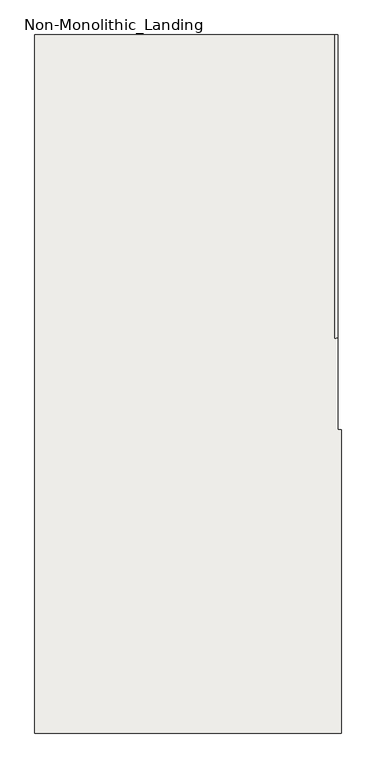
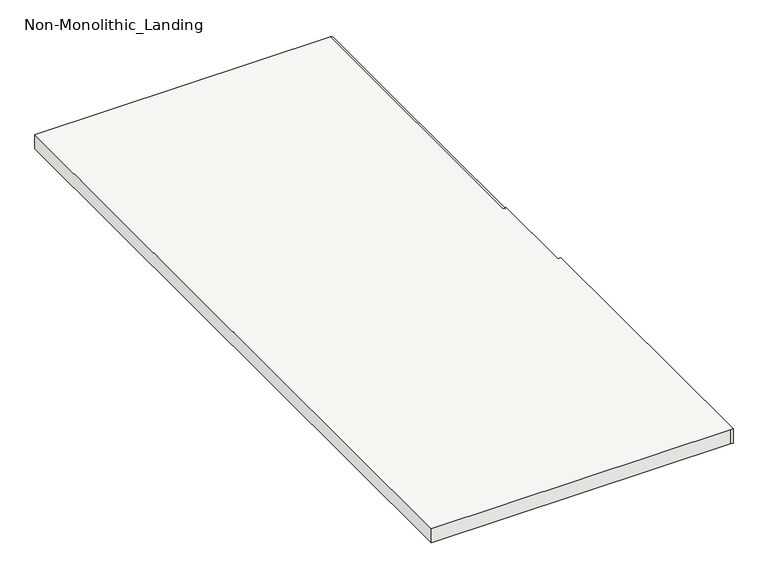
"""IFC4 building model written with IfcOpenShell, lengths in millimetres: slab geometry, Non-Monolithic_Landing."""

from ifc_helpers import new_model, si_unit, frame, origin, place, context, project, spatial, circle_curve, source, transform, mapped, element, save
from ifc_brep_helpers import plane_surface, cylinder_surface, advanced_brep


def non_monolithic_landing_f94249ac(model_context):
    return source(origin(), model_context, "Body", "AdvancedBrep", [
        advanced_brep(
        [(-17670.7705062, -30865.7565305, 4280.0), (-17670.7705062, -30865.7565305, 4300.0), (-17670.7705062, -31865.7565305, 4300.0), (-17660.7705062, -31865.7565305, 4290.0), (-17670.7705062, -31865.7565305, 4280.0), (-17660.7705062, -31865.7565305, 4300.0), (-18660.7705062, -30865.7565305, 4300.0), (-18660.7705062, -33165.7565305, 4300.0), (-17660.7705062, -33165.7565305, 4300.0), (-17650.7705062, -33165.7565305, 4300.0), (-17650.7705062, -32165.7565305, 4300.0), (-17660.7705062, -32165.7565305, 4300.0), (-17670.7705062, -31865.7565305, 4250.0), (-17660.7705062, -31865.7565305, 4250.0), (-17660.7705062, -32165.7565305, 4250.0), (-17650.7705062, -32165.7565305, 4250.0), (-17650.7705062, -33165.7565305, 4250.0), (-17660.7705062, -33165.7565305, 4250.0), (-18660.7705062, -33165.7565305, 4250.0), (-18660.7705062, -30865.7565305, 4250.0), (-17670.7705062, -30865.7565305, 4250.0)],
        [
            (0, 1, circle_curve(frame((-17670.7705062, -30865.7565305, 4290.0), z_axis=(0.0, -1.0, 0.0), x_axis=(-1.0, 0.0, 0.0)), 10.0)),
            (1, 2),
            (2, 3, circle_curve(frame((-17670.7705062, -31865.7565305, 4290.0), z_axis=(0.0, 1.0, 0.0), x_axis=(-1.0, 0.0, 0.0)), 10.0)),
            (3, 4, circle_curve(frame((-17670.7705062, -31865.7565305, 4290.0), z_axis=(0.0, 1.0, 0.0), x_axis=(-1.0, 0.0, 0.0)), 10.0)),
            (4, 0),
            (5, 2),
            (1, 6),
            (6, 7),
            (7, 8),
            (8, 9),
            (9, 10),
            (10, 11),
            (11, 5),
            (12, 13),
            (13, 14),
            (14, 15),
            (15, 16),
            (16, 17),
            (17, 18),
            (18, 19),
            (19, 20),
            (20, 12),
            (5, 3),
            (12, 4),
            (3, 13),
            (20, 0),
            (19, 6),
            (18, 7),
            (17, 8),
            (16, 9),
            (15, 10),
            (14, 11),
        ],
        [
            cylinder_surface(frame((-17670.7705062, -30865.7565305, 4290.0), z_axis=(0.0, 1.0, 0.0), x_axis=(-1.0, 0.0, 0.0)), 10.0),
            plane_surface(frame((-17660.7705062, -31865.7565305, 4300.0), z_axis=(0.0, 0.0, 1.0), x_axis=(-1.0, 0.0, 0.0))),
            plane_surface(frame((-17660.7705062, -31865.7565305, 4250.0), z_axis=(0.0, 0.0, -1.0), x_axis=(1.0, 0.0, 0.0))),
            plane_surface(frame((-17660.7705062, -31865.7565305, 4300.0), z_axis=(0.0, 1.0, 0.0), x_axis=(0.0, 0.0, -1.0))),
            plane_surface(frame((-17670.7705062, -31865.7565305, 4300.0), z_axis=(1.0, 0.0, 0.0), x_axis=(0.0, 0.0, -1.0))),
            plane_surface(frame((-17670.7705062, -30865.7565305, 4300.0), z_axis=(0.0, 1.0, 0.0), x_axis=(0.0, 0.0, -1.0))),
            plane_surface(frame((-18660.7705062, -30865.7565305, 4300.0), z_axis=(-1.0, 0.0, 0.0), x_axis=(0.0, 0.0, -1.0))),
            plane_surface(frame((-18660.7705062, -33165.7565305, 4300.0), z_axis=(0.0, -1.0, 0.0), x_axis=(0.0, 0.0, -1.0))),
            plane_surface(frame((-17660.7705062, -33165.7565305, 4300.0), z_axis=(0.0, -1.0, 0.0), x_axis=(0.0, 0.0, -1.0))),
            plane_surface(frame((-17650.7705062, -33165.7565305, 4300.0), z_axis=(1.0, 0.0, 0.0), x_axis=(0.0, 0.0, -1.0))),
            plane_surface(frame((-17650.7705062, -32165.7565305, 4300.0), z_axis=(0.0, 1.0, 0.0), x_axis=(0.0, 0.0, -1.0))),
            plane_surface(frame((-17660.7705062, -32165.7565305, 4300.0), z_axis=(1.0, 0.0, 0.0), x_axis=(0.0, 0.0, -1.0))),
        ],
        [
            (0, [[1, 2, 3, 4, 5]]),
            (1, [[6, -2, 7, 8, 9, 10, 11, 12, 13]]),
            (2, [[14, 15, 16, 17, 18, 19, 20, 21, 22]]),
            (3, [[-6, 23, -3]]),
            (3, [[-14, 24, -4, 25]]),
            (4, [[-22, 26, -5, -24]]),
            (5, [[-7, -1, -26, -21, 27]]),
            (6, [[-8, -27, -20, 28]]),
            (7, [[-9, -28, -19, 29]]),
            (8, [[-10, -29, -18, 30]]),
            (9, [[-11, -30, -17, 31]]),
            (10, [[-12, -31, -16, 32]]),
            (11, [[-13, -32, -15, -25, -23]]),
        ],
    ),
    ])


if __name__ == "__main__":
    model = new_model("IFC4")
    model_context = context("Model", 3, world=origin())
    ifc_project = project(units=[si_unit("LENGTHUNIT", "METRE", prefix="MILLI")], contexts=[model_context])
    site = spatial("IfcSite", under=ifc_project)
    building = spatial("IfcBuilding", under=site)
    placement = place(None, origin())
    non_monolithic_landing_shape = non_monolithic_landing_f94249ac(model_context)
    element("IfcSlab", 1, ObjectType="Non-Monolithic_Landing", at=placement, inside=building, context=model_context, shape_type="MappedRepresentation", body=[
        mapped(non_monolithic_landing_shape, transform((0.0, 0.0, 0.0), x_axis=(1.0, 0.0, 0.0), y_axis=(0.0, 1.0, 0.0), z_axis=(0.0, 0.0, 1.0))),
    ])
    save(model, "model.ifc")
